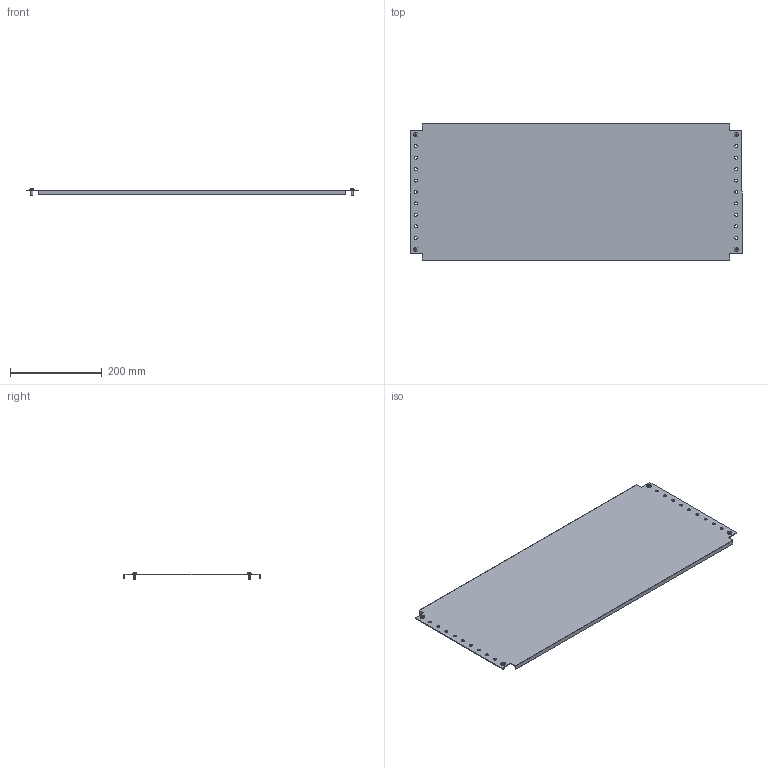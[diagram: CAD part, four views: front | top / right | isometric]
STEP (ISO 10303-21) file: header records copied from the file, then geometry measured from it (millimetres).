
FILE_DESCRIPTION (( 'STEP AP203' ), '1' );
FILE_NAME ('R6MPP03800.STEP', '2025-05-16T08:12:12', ( '' ), ( '' ), 'SwSTEP 2.0', 'SolidWorks 2022', '' );
FILE_SCHEMA (( 'CONFIG_CONTROL_DESIGN' ));
Length unit declared in the file: millimetre
Products named in the file (3): R6MPP03800; M5x12 DIN 7500 C Torx Zinc_stright; RB.3313.00.00.0 simple_-08
Assembly tree (5 placements, depth 2):
  R6MPP03800
    RB.3313.00.00.0 simple_-08
    M5x12 DIN 7500 C Torx Zinc_stright  x4
Bounding box: 725 x 298 x 15.56 mm (x, y, z)
Volume: 406146 mm3; surface area: 455659.6 mm2
Topology: 5 solids, 5 shells, 166 faces, 404 edges, 244 vertices
Faces by surface type: cylinder 60, plane 58, cone 16, torus 16, bspline 8, sphere 8
Entity records: 3647 total; most frequent: CARTESIAN_POINT 729, DIRECTION 558, ORIENTED_EDGE 504, EDGE_CURVE 252, AXIS2_PLACEMENT_3D 216, VERTEX_POINT 163, EDGE_LOOP 139, VECTOR 126
